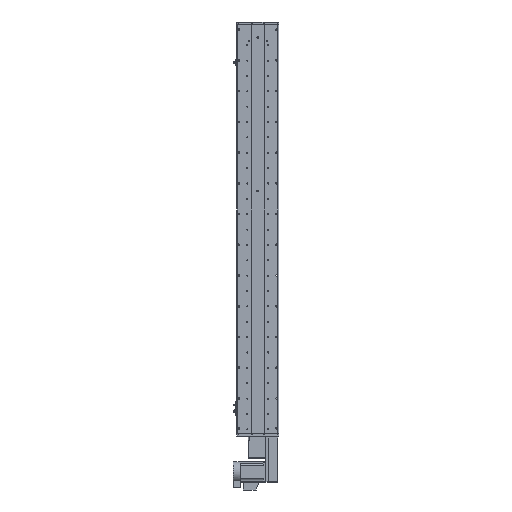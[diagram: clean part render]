
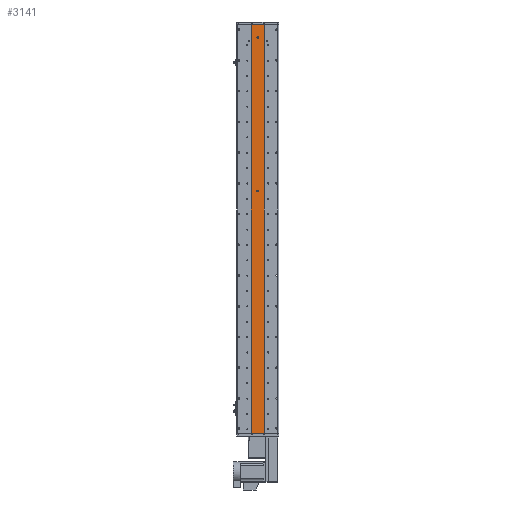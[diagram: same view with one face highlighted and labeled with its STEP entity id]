
A CAD part, front view. The second image highlights one B-rep face of the part: STEP entity #3141.
In plain terms, the highlighted planar face has unit normal (0, -1, 0).
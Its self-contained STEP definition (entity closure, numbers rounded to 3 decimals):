
#432 = ORIENTED_EDGE ( 'NONE', *, *, #16711, .F. ) ;
#1652 = EDGE_CURVE ( 'NONE', #11106, #3175, #14432, .T. ) ;
#2114 = VERTEX_POINT ( 'NONE', #29258 ) ;
#2214 = AXIS2_PLACEMENT_3D ( 'NONE', #15256, #67607, #36242 ) ;
#2309 = ORIENTED_EDGE ( 'NONE', *, *, #1652, .T. ) ;
#3141 = ADVANCED_FACE ( 'NONE', ( #4342, #47717, #58415 ), #4452, .F. ) ;
#3175 = VERTEX_POINT ( 'NONE', #31448 ) ;
#4342 = FACE_BOUND ( 'NONE', #18037, .T. ) ;
#4452 = PLANE ( 'NONE',  #2214 ) ;
#4522 = EDGE_CURVE ( 'NONE', #36190, #3175, #12317, .T. ) ;
#6398 = DIRECTION ( 'NONE',  ( 0., -1., 0. ) ) ;
#8704 = CARTESIAN_POINT ( 'NONE',  ( 0., 1., 748.5 ) ) ;
#10020 = VERTEX_POINT ( 'NONE', #31083 ) ;
#11106 = VERTEX_POINT ( 'NONE', #19657 ) ;
#12317 = LINE ( 'NONE', #65964, #54036 ) ;
#12962 = CARTESIAN_POINT ( 'NONE',  ( 0., 1., 148.5 ) ) ;
#13952 = ORIENTED_EDGE ( 'NONE', *, *, #55064, .F. ) ;
#13984 = DIRECTION ( 'NONE',  ( 0., 0., -1. ) ) ;
#14432 = LINE ( 'NONE', #24518, #40565 ) ;
#14496 = AXIS2_PLACEMENT_3D ( 'NONE', #25441, #62010, #30667 ) ;
#15256 = CARTESIAN_POINT ( 'NONE',  ( 25., 1., 798.5 ) ) ;
#15716 = CIRCLE ( 'NONE', #31119, 3. ) ;
#16711 = EDGE_CURVE ( 'NONE', #10020, #43557, #43022, .T. ) ;
#17974 = CIRCLE ( 'NONE', #52521, 3. ) ;
#18037 = EDGE_LOOP ( 'NONE', ( #58871, #13952 ) ) ;
#18240 = DIRECTION ( 'NONE',  ( 0., 0., -1. ) ) ;
#19593 = CARTESIAN_POINT ( 'NONE',  ( 25., 1., 798.5 ) ) ;
#19657 = CARTESIAN_POINT ( 'NONE',  ( -25., 1., -798.5 ) ) ;
#23070 = CIRCLE ( 'NONE', #14496, 3. ) ;
#24518 = CARTESIAN_POINT ( 'NONE',  ( 25., 1., -798.5 ) ) ;
#24845 = DIRECTION ( 'NONE',  ( 1., 0., 0. ) ) ;
#25332 = DIRECTION ( 'NONE',  ( 0., 0., -1. ) ) ;
#25441 = CARTESIAN_POINT ( 'NONE',  ( 0., 1., 148.5 ) ) ;
#27404 = LINE ( 'NONE', #19593, #53574 ) ;
#29258 = CARTESIAN_POINT ( 'NONE',  ( 0., 1., 151.5 ) ) ;
#30667 = DIRECTION ( 'NONE',  ( 0., 0., -1. ) ) ;
#31083 = CARTESIAN_POINT ( 'NONE',  ( 0., 1., 751.5 ) ) ;
#31119 = AXIS2_PLACEMENT_3D ( 'NONE', #12962, #49520, #18240 ) ;
#31448 = CARTESIAN_POINT ( 'NONE',  ( 25., 1., -798.5 ) ) ;
#32511 = VERTEX_POINT ( 'NONE', #33993 ) ;
#33993 = CARTESIAN_POINT ( 'NONE',  ( -25., 1., 798.5 ) ) ;
#35006 = DIRECTION ( 'NONE',  ( 1., 0., 0. ) ) ;
#36190 = VERTEX_POINT ( 'NONE', #37308 ) ;
#36242 = DIRECTION ( 'NONE',  ( 0., 0., 1. ) ) ;
#36869 = EDGE_CURVE ( 'NONE', #60414, #2114, #15716, .T. ) ;
#37308 = CARTESIAN_POINT ( 'NONE',  ( 25., 1., 798.5 ) ) ;
#37734 = CARTESIAN_POINT ( 'NONE',  ( 0., 1., 748.5 ) ) ;
#38222 = ORIENTED_EDGE ( 'NONE', *, *, #50726, .F. ) ;
#40565 = VECTOR ( 'NONE', #35006, 1000. ) ;
#43006 = DIRECTION ( 'NONE',  ( 0., 0., -1. ) ) ;
#43022 = CIRCLE ( 'NONE', #56757, 3. ) ;
#43557 = VERTEX_POINT ( 'NONE', #48033 ) ;
#44531 = LINE ( 'NONE', #61907, #46127 ) ;
#45265 = DIRECTION ( 'NONE',  ( 0., -1., 0. ) ) ;
#45363 = ORIENTED_EDGE ( 'NONE', *, *, #62033, .F. ) ;
#46127 = VECTOR ( 'NONE', #25332, 1000. ) ;
#46537 = EDGE_CURVE ( 'NONE', #32511, #11106, #44531, .T. ) ;
#47717 = FACE_BOUND ( 'NONE', #51654, .T. ) ;
#48033 = CARTESIAN_POINT ( 'NONE',  ( 0., 1., 745.5 ) ) ;
#49520 = DIRECTION ( 'NONE',  ( 0., -1., 0. ) ) ;
#50178 = DIRECTION ( 'NONE',  ( 0., 0., -1. ) ) ;
#50375 = ORIENTED_EDGE ( 'NONE', *, *, #46537, .T. ) ;
#50726 = EDGE_CURVE ( 'NONE', #32511, #36190, #27404, .T. ) ;
#51654 = EDGE_LOOP ( 'NONE', ( #45363, #432 ) ) ;
#52521 = AXIS2_PLACEMENT_3D ( 'NONE', #37734, #6398, #43006 ) ;
#53574 = VECTOR ( 'NONE', #24845, 1000. ) ;
#54036 = VECTOR ( 'NONE', #50178, 1000. ) ;
#55064 = EDGE_CURVE ( 'NONE', #2114, #60414, #23070, .T. ) ;
#55544 = ORIENTED_EDGE ( 'NONE', *, *, #4522, .F. ) ;
#56757 = AXIS2_PLACEMENT_3D ( 'NONE', #8704, #45265, #13984 ) ;
#58415 = FACE_OUTER_BOUND ( 'NONE', #67585, .T. ) ;
#58871 = ORIENTED_EDGE ( 'NONE', *, *, #36869, .F. ) ;
#60414 = VERTEX_POINT ( 'NONE', #66002 ) ;
#61907 = CARTESIAN_POINT ( 'NONE',  ( -25., 1., 798.5 ) ) ;
#62010 = DIRECTION ( 'NONE',  ( 0., -1., 0. ) ) ;
#62033 = EDGE_CURVE ( 'NONE', #43557, #10020, #17974, .T. ) ;
#65964 = CARTESIAN_POINT ( 'NONE',  ( 25., 1., 798.5 ) ) ;
#66002 = CARTESIAN_POINT ( 'NONE',  ( 0., 1., 145.5 ) ) ;
#67585 = EDGE_LOOP ( 'NONE', ( #2309, #55544, #38222, #50375 ) ) ;
#67607 = DIRECTION ( 'NONE',  ( 0., 1., 0. ) ) ;
